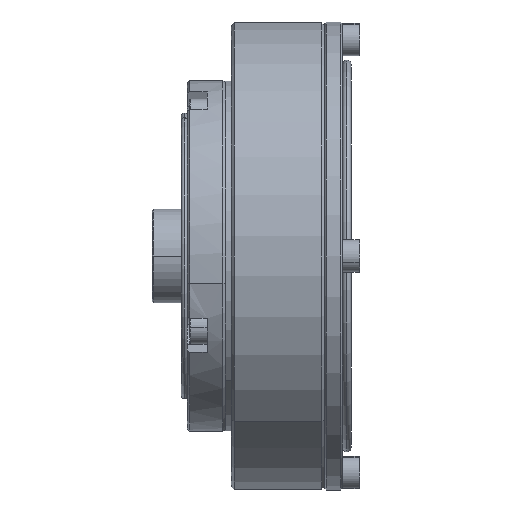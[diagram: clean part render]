
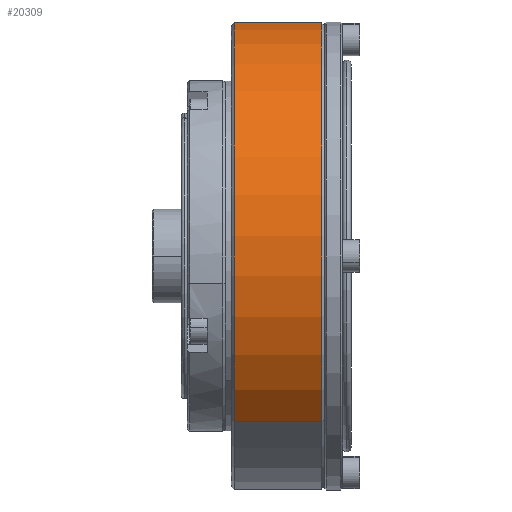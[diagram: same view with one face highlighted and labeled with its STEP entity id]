
A CAD part, front view. The second image highlights one B-rep face of the part: STEP entity #20309.
In plain terms, the highlighted cylindrical face has radius 40 mm (diameter 80 mm), a partial arc.
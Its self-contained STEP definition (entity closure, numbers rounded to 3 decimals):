
#522 = DIRECTION ( 'NONE',  ( 1., 0., 0. ) ) ;
#891 = DIRECTION ( 'NONE',  ( 1., 0., 0. ) ) ;
#991 = VERTEX_POINT ( 'NONE', #13428 ) ;
#1191 = VERTEX_POINT ( 'NONE', #8335 ) ;
#1320 = EDGE_CURVE ( 'NONE', #991, #16168, #17830, .T. ) ;
#1690 = DIRECTION ( 'NONE',  ( 1., 0., 0. ) ) ;
#2116 = LINE ( 'NONE', #18725, #10762 ) ;
#4380 = DIRECTION ( 'NONE',  ( 0., -0.707, -0.707 ) ) ;
#6045 = CARTESIAN_POINT ( 'NONE',  ( 85.814, 0., 0. ) ) ;
#6965 = CARTESIAN_POINT ( 'NONE',  ( 29., 28.284, 28.284 ) ) ;
#8335 = CARTESIAN_POINT ( 'NONE',  ( 14., -28.284, -28.284 ) ) ;
#8658 = VECTOR ( 'NONE', #522, 1000. ) ;
#8712 = EDGE_CURVE ( 'NONE', #20815, #16168, #13551, .T. ) ;
#9203 = FACE_OUTER_BOUND ( 'NONE', #9949, .T. ) ;
#9949 = EDGE_LOOP ( 'NONE', ( #11068, #11516, #20927, #14346 ) ) ;
#10294 = CARTESIAN_POINT ( 'NONE',  ( 29., 0., 0. ) ) ;
#10762 = VECTOR ( 'NONE', #16931, 1000. ) ;
#11068 = ORIENTED_EDGE ( 'NONE', *, *, #1320, .F. ) ;
#11516 = ORIENTED_EDGE ( 'NONE', *, *, #15430, .T. ) ;
#12005 = CARTESIAN_POINT ( 'NONE',  ( 14., 0., 0. ) ) ;
#12027 = DIRECTION ( 'NONE',  ( 0., 0.707, 0.707 ) ) ;
#12657 = CIRCLE ( 'NONE', #21030, 40. ) ;
#13209 = CYLINDRICAL_SURFACE ( 'NONE', #17490, 40. ) ;
#13428 = CARTESIAN_POINT ( 'NONE',  ( 14., 28.284, 28.284 ) ) ;
#13551 = CIRCLE ( 'NONE', #21800, 40. ) ;
#13703 = DIRECTION ( 'NONE',  ( 0., -0.707, -0.707 ) ) ;
#14346 = ORIENTED_EDGE ( 'NONE', *, *, #8712, .T. ) ;
#15430 = EDGE_CURVE ( 'NONE', #991, #1191, #12657, .T. ) ;
#16168 = VERTEX_POINT ( 'NONE', #6965 ) ;
#16275 = CARTESIAN_POINT ( 'NONE',  ( 29., -28.284, -28.284 ) ) ;
#16931 = DIRECTION ( 'NONE',  ( 1., 0., 0. ) ) ;
#17490 = AXIS2_PLACEMENT_3D ( 'NONE', #6045, #891, #4380 ) ;
#17830 = LINE ( 'NONE', #20622, #8658 ) ;
#18725 = CARTESIAN_POINT ( 'NONE',  ( 85.814, -28.284, -28.284 ) ) ;
#20309 = ADVANCED_FACE ( 'NONE', ( #9203 ), #13209, .T. ) ;
#20622 = CARTESIAN_POINT ( 'NONE',  ( 85.814, 28.284, 28.284 ) ) ;
#20815 = VERTEX_POINT ( 'NONE', #16275 ) ;
#20927 = ORIENTED_EDGE ( 'NONE', *, *, #21610, .T. ) ;
#21030 = AXIS2_PLACEMENT_3D ( 'NONE', #12005, #1690, #13703 ) ;
#21610 = EDGE_CURVE ( 'NONE', #1191, #20815, #2116, .T. ) ;
#21800 = AXIS2_PLACEMENT_3D ( 'NONE', #10294, #22411, #12027 ) ;
#22411 = DIRECTION ( 'NONE',  ( -1., 0., 0. ) ) ;
